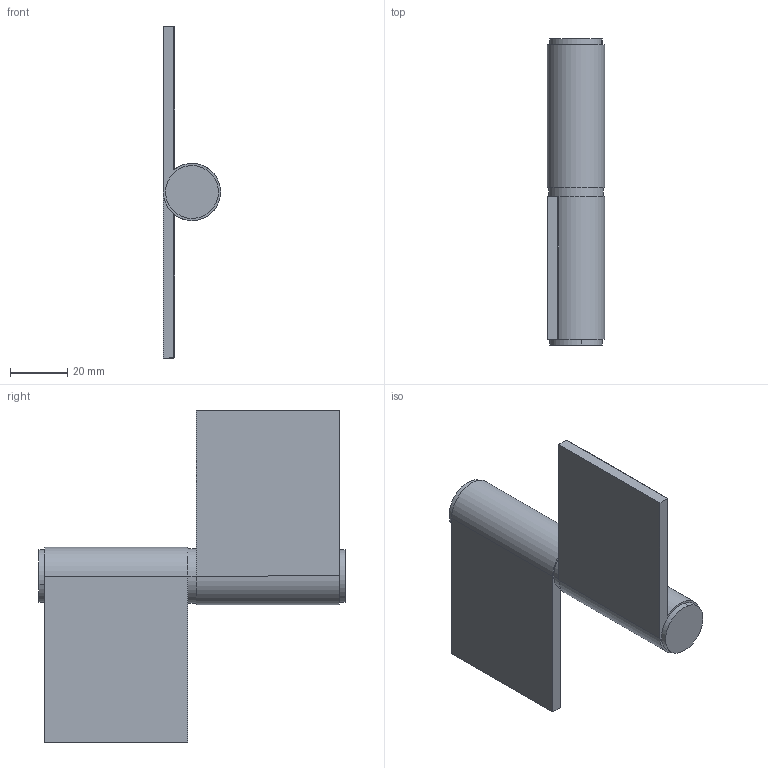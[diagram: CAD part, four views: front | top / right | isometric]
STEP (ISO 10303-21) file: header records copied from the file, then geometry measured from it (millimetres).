
FILE_DESCRIPTION (( 'STEP AP203' ), '1' );
FILE_NAME ('DEH-37S-4.STEP', '2013-08-14T06:29:21', ( '中村　妙子' ), ( 'ＮＴ設計' ), 'SwSTEP 2.0', 'SolidWorks 2002296', '' );
FILE_SCHEMA (( 'CONFIG_CONTROL_DESIGN' ));
Length unit declared in the file: millimetre
Products named in the file (4): DEH-37S-4; DEH-37S-4-2_蹬怮椔; DEH-37S-4-3_蹬怮椔; DEH-37S-4-1_蹬怮椔
Assembly tree (5 placements, depth 2):
  DEH-37S-4
    DEH-37S-4-3_蹬怮椔  x2
    DEH-37S-4-1_蹬怮椔
    DEH-37S-4-2_蹬怮椔  x2
Bounding box: 20 x 107 x 116 mm (x, y, z)
Volume: 52168.4 mm3; surface area: 27328.7 mm2
Topology: 5 solids, 5 shells, 48 faces, 98 edges, 64 vertices
Faces by surface type: cylinder 28, plane 20
Entity records: 1252 total; most frequent: DIRECTION 156, CARTESIAN_POINT 149, ORIENTED_EDGE 116, AXIS2_PLACEMENT_3D 65, EDGE_CURVE 58, VERTEX_POINT 38, PERSON_AND_ORGANIZATION 37, EDGE_LOOP 34
